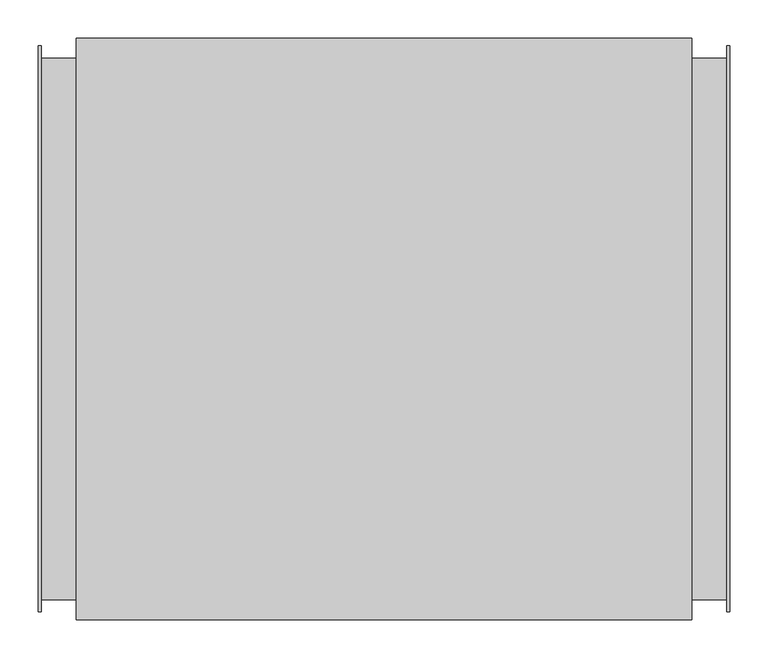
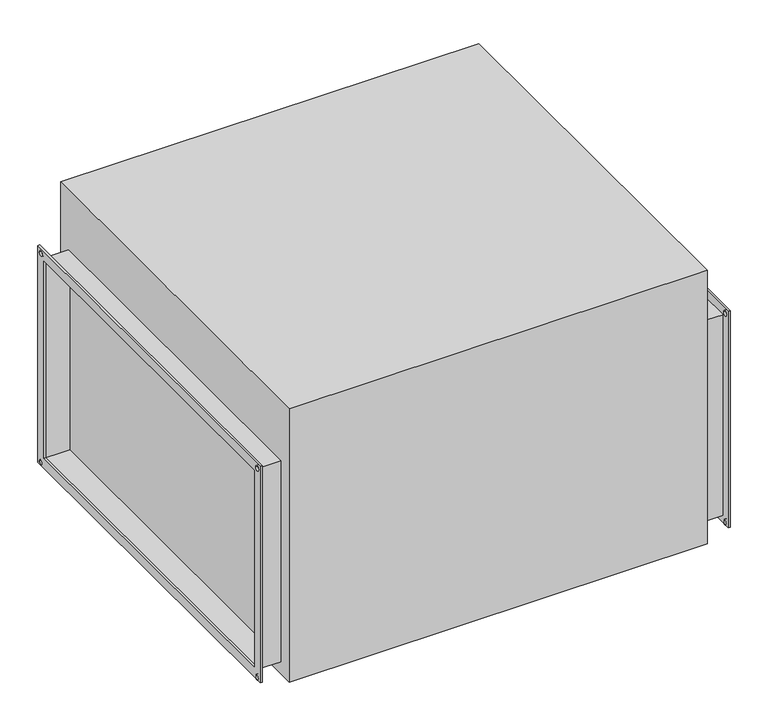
"""IFC4 building model written with IfcOpenShell, lengths in millimetres: proxy geometry."""

import ifcopenshell
import ifcopenshell.guid

model = None  # the IFC model being written
_history = None  # IfcOwnerHistory: only IFC2X3 demands one
_inside = {}  # id of a spatial element -> (the spatial element, [elements in it])
_under = {}  # id of a project, library or spatial element -> (it, [spatial elements below it])
_declared = {}  # id of a project -> (the project, [libraries it declares])
_typed = {}  # id of a type object -> (the type object, [elements of that type])
_made_of = {}  # id of a material, layer set ... -> (it, [elements and type objects made of it])


def new_model(schema):
    """Start an empty IFC model of exactly this schema.

    Asked for "IFC4X3", IfcOpenShell would pick the latest addendum, in which some entities
    have other attributes; the version numbers below select the first issue.
    IFC2X3 requires an IfcOwnerHistory on every rooted entity: one is made here for all.
    """
    global model, _history
    if schema == "IFC4X3":
        model = ifcopenshell.file(schema_version=(4, 3, 0, 0))
    else:
        model = ifcopenshell.file(schema=schema)
    _inside.clear()
    _under.clear()
    _declared.clear()
    _typed.clear()
    _made_of.clear()
    _history = None
    if model.schema == "IFC2X3":
        org = make("IfcOrganization", Name="unknown")
        user = make(
            "IfcPersonAndOrganization",
            ThePerson=make("IfcPerson", FamilyName="unknown"),
            TheOrganization=org,
        )
        app = make(
            "IfcApplication",
            ApplicationDeveloper=org,
            Version="unknown",
            ApplicationFullName="unknown",
            ApplicationIdentifier="unknown",
        )
        _history = make(
            "IfcOwnerHistory",
            OwningUser=user,
            OwningApplication=app,
            ChangeAction="ADDED",
            CreationDate=0,
        )
    return model


def make(cls, **values):
    """One entity of the class cls with the attributes given. An attribute that is None is left unset."""
    return model.create_entity(
        cls, **{name: value for name, value in values.items() if value is not None}
    )


def rooted(cls, **values):
    """An entity with a GlobalId (a new one), such as an element, a storey or a relation."""
    return make(cls, GlobalId=ifcopenshell.guid.new(), OwnerHistory=_history, **values)


def si_unit(unit_type, name, prefix=None):
    """IfcSIUnit, for example si_unit("LENGTHUNIT", "METRE", prefix="MILLI")."""
    return make("IfcSIUnit", UnitType=unit_type, Prefix=prefix, Name=name)


def assignment(units):
    """IfcUnitAssignment: the units of a project."""
    return None if units is None else make("IfcUnitAssignment", Units=units)


def point(xyz):
    """IfcCartesianPoint."""
    return None if xyz is None else make("IfcCartesianPoint", Coordinates=xyz)


def direction(xyz):
    """IfcDirection."""
    return None if xyz is None else make("IfcDirection", DirectionRatios=xyz)


def frame(location, z_axis=None, x_axis=None):
    """IfcAxis2Placement3D, a coordinate frame: its origin and axes. An axis left out is left unset."""
    return make(
        "IfcAxis2Placement3D",
        Location=point(location),
        Axis=direction(z_axis),
        RefDirection=direction(x_axis),
    )


def origin():
    """The frame at (0, 0, 0) with its axes left unset."""
    return frame((0.0, 0.0, 0.0))


def place(relative_to, where):
    """IfcLocalPlacement: puts the frame where relative to a parent placement (None: the world)."""
    return make(
        "IfcLocalPlacement", PlacementRelTo=relative_to, RelativePlacement=where
    )


def context(
    kind, dimensions, precision=None, world=None, true_north=None, identifier=None
):
    """IfcGeometricRepresentationContext, for example the 3D "Model" context."""
    return make(
        "IfcGeometricRepresentationContext",
        ContextIdentifier=identifier,
        ContextType=kind,
        CoordinateSpaceDimension=dimensions,
        Precision=precision,
        WorldCoordinateSystem=world,
        TrueNorth=true_north,
    )


def project(units=None, contexts=None):
    """IfcProject with its units and contexts."""
    return rooted(
        "IfcProject",
        Name="project",
        RepresentationContexts=contexts,
        UnitsInContext=assignment(units),
    )


def spatial(cls, under=None, at=None, **own):
    """A site, building, storey or space (cls), placed at a placement, below another one or the project."""
    s = rooted(cls, ObjectPlacement=at, **own)
    if under is not None:
        _under.setdefault(under.id(), (under, []))[1].append(s)
    return s


def polyline(points):
    """IfcPolyline through the points."""
    return make("IfcPolyline", Points=[point(p) for p in points])


def circle_curve(where, radius):
    """IfcCircle in the frame where."""
    return make("IfcCircle", Position=where, Radius=radius)


def outline(outer, holes=None, kind="AREA"):
    """IfcArbitraryClosedProfileDef: a profile drawn as a closed curve; with holes, ...WithVoids."""
    if holes is None:
        return make("IfcArbitraryClosedProfileDef", ProfileType=kind, OuterCurve=outer)
    return make(
        "IfcArbitraryProfileDefWithVoids",
        ProfileType=kind,
        OuterCurve=outer,
        InnerCurves=holes,
    )


def extrude(swept, where, along, depth):
    """IfcExtrudedAreaSolid: the profile swept, set in the frame where, extruded along a direction by depth."""
    return make(
        "IfcExtrudedAreaSolid",
        SweptArea=swept,
        Position=where,
        ExtrudedDirection=direction(along),
        Depth=depth,
    )


def shape(context_of_items, identifier, shape_type, items):
    """IfcShapeRepresentation: the items that make up one representation, for example the "Body"."""
    return make(
        "IfcShapeRepresentation",
        ContextOfItems=context_of_items,
        RepresentationIdentifier=identifier,
        RepresentationType=shape_type,
        Items=items,
    )


def source(mapping_origin, context_of_items, identifier, shape_type, items):
    """IfcRepresentationMap: a shape defined once, which mapped items show again and again."""
    return make(
        "IfcRepresentationMap",
        MappingOrigin=mapping_origin,
        MappedRepresentation=shape(context_of_items, identifier, shape_type, items),
    )


def transform(
    local_origin,
    x_axis=None,
    y_axis=None,
    z_axis=None,
    scale=None,
    scale2=None,
    scale3=None,
    uniform=True,
):
    """IfcCartesianTransformationOperator3D, or its non-uniform kind. x_axis, y_axis, z_axis: its Axis1, 2, 3."""
    if uniform:
        return make(
            "IfcCartesianTransformationOperator3D",
            Axis1=direction(x_axis),
            Axis2=direction(y_axis),
            LocalOrigin=point(local_origin),
            Scale=scale,
            Axis3=direction(z_axis),
        )
    return make(
        "IfcCartesianTransformationOperator3DnonUniform",
        Axis1=direction(x_axis),
        Axis2=direction(y_axis),
        LocalOrigin=point(local_origin),
        Scale=scale,
        Axis3=direction(z_axis),
        Scale2=scale2,
        Scale3=scale3,
    )


def mapped(mapping_source, mapping_target):
    """IfcMappedItem: shows the shape of a source again, moved by a transform."""
    return make(
        "IfcMappedItem", MappingSource=mapping_source, MappingTarget=mapping_target
    )


def made_of(thing, what):
    """Note that an element or type object is made of a material, layer set ...; save() writes the relation."""
    if what is not None:
        _made_of.setdefault(what.id(), (what, []))[1].append(thing)
    return thing


def element(
    cls,
    number,
    at=None,
    inside=None,
    cuts=None,
    type_object=None,
    material=None,
    context=None,
    identifier="Body",
    shape_type=None,
    held_by="IfcProductDefinitionShape",
    body=None,
    shapes=None,
    **own,
):
    """One element of the class cls, such as IfcWall. Its Tag is "e" and its number.

    at: its placement. inside: the storey or other place that contains it. cuts: it is an
    opening in that element (IfcRelVoidsElement). A single representation is given by context,
    identifier, shape_type and body (its items); several are given by shapes. held_by: the class
    of the entity that holds the representations. save() writes the other relations.
    """
    e = rooted(cls, Tag="e%d" % number, ObjectPlacement=at, **own)
    if body is not None:
        shapes = [shape(context, identifier, shape_type, body)]
    if shapes is not None:
        e.Representation = make(held_by, Representations=shapes)
    if inside is not None:
        _inside.setdefault(inside.id(), (inside, []))[1].append(e)
    if cuts is not None:
        rooted(
            "IfcRelVoidsElement", RelatingBuildingElement=cuts, RelatedOpeningElement=e
        )
    if type_object is not None:
        _typed.setdefault(type_object.id(), (type_object, []))[1].append(e)
    return made_of(e, material)


def aggregate(whole, parts):
    """IfcRelAggregates: a whole, such as a stair, and the parts it consists of."""
    return rooted("IfcRelAggregates", RelatingObject=whole, RelatedObjects=parts)


def save(model, path):
    """Write the relations noted so far, then the file.

    IfcRelAggregates (storeys below a building ...), IfcRelContainedInSpatialStructure (elements
    in a storey), IfcRelDefinesByType, IfcRelAssociatesMaterial and IfcRelDeclares: one each for
    every whole, place, type object, material and project.
    """
    for whole, parts in _under.values():
        aggregate(whole, parts)
    for where, things in _inside.values():
        rooted(
            "IfcRelContainedInSpatialStructure",
            RelatedElements=things,
            RelatingStructure=where,
        )
    for kind, things in _typed.values():
        rooted("IfcRelDefinesByType", RelatedObjects=things, RelatingType=kind)
    for what, things in _made_of.values():
        rooted("IfcRelAssociatesMaterial", RelatedObjects=things, RelatingMaterial=what)
    for by, libraries in _declared.values():
        rooted("IfcRelDeclares", RelatingContext=by, RelatedDefinitions=libraries)
    model.write(path)


def plane_surface(at):
    """IfcPlane: the flat surface through the origin of the frame at, square to its z axis."""
    return make("IfcPlane", Position=at)


def revolved_surface(curve, axis_point, axis_direction):
    """IfcSurfaceOfRevolution: the curve turned about the line through axis_point along axis_direction."""
    return make(
        "IfcSurfaceOfRevolution",
        SweptCurve=make("IfcArbitraryOpenProfileDef", ProfileType="CURVE", Curve=curve),
        AxisPosition=make("IfcAxis1Placement", Location=point(axis_point), Axis=direction(axis_direction)),
    )


def advanced_brep(points, edges, surfaces, faces):
    """IfcAdvancedBrep: a solid bounded by faces that lie on surfaces and meet in shared edges.

    An edge is (start, end): straight between two places in points (the first is 0);
    or (start, end, curve); or (start, end, curve, False) where it runs against its curve.
    A face is (place in surfaces, loops), or (place, loops, False) where it looks against
    its surface's normal. A loop lists edges by number (the first is 1), with a minus sign
    where the edge is run from its end to its start. The first loop is the outer one.
    """
    corners = [point(p) for p in points]
    vertices = [make("IfcVertexPoint", VertexGeometry=c) for c in corners]
    made = []
    for start, end, *more in edges:
        made.append(
            make(
                "IfcEdgeCurve",
                EdgeStart=vertices[start],
                EdgeEnd=vertices[end],
                EdgeGeometry=more[0] if more else make("IfcPolyline", Points=[corners[start], corners[end]]),
                SameSense=more[1] if len(more) > 1 else True,
            )
        )
    hull = []
    for where, loops, *sense in faces:
        bounds = []
        for j, loop in enumerate(loops):
            ring = [make("IfcOrientedEdge", EdgeElement=made[abs(k) - 1], Orientation=k > 0) for k in loop]
            bounds.append(
                make(
                    "IfcFaceOuterBound" if j == 0 else "IfcFaceBound",
                    Bound=make("IfcEdgeLoop", EdgeList=ring),
                    Orientation=True,
                )
            )
        hull.append(make("IfcAdvancedFace", Bounds=bounds, FaceSurface=surfaces[where], SameSense=sense[0] if sense else True))
    return make("IfcAdvancedBrep", Outer=make("IfcClosedShell", CfsFaces=hull))


def mechanical_equipment_14c00c82(model_context):
    return source(origin(), model_context, "Body", "SolidModel", [
        advanced_brep(
        [(448.0, 370.0, 220.0), (448.0, 370.0, -220.0), (448.0, 360.0, -220.0), (448.0, 365.0, -215.0), (448.0, 355.0, -215.0), (448.0, -360.0, -220.0), (448.0, -355.0, -215.0), (448.0, -365.0, -215.0), (448.0, -370.0, -220.0), (448.0, -370.0, 220.0), (448.0, 350.0, 200.0), (448.0, -350.0, 200.0), (448.0, -350.0, -200.0), (448.0, 350.0, -200.0), (448.0, 355.0, 210.0), (448.0, 365.0, 210.0), (448.0, -365.0, 210.0), (448.0, -355.0, 210.0), (452.0, 370.0, 220.0), (452.0, -370.0, 220.0), (452.0, -370.0, -220.0), (452.0, -360.0, -220.0), (452.0, -365.0, -215.0), (452.0, -355.0, -215.0), (452.0, 360.0, -220.0), (452.0, 355.0, -215.0), (452.0, 365.0, -215.0), (452.0, 370.0, -220.0), (452.0, 350.0, 200.0), (452.0, 350.0, -200.0), (452.0, -350.0, -200.0), (452.0, -350.0, 200.0), (452.0, 365.0, 210.0), (452.0, 355.0, 210.0), (452.0, -355.0, 210.0), (452.0, -365.0, 210.0)],
        [
            (0, 1),
            (1, 2),
            (2, 3, circle_curve(frame((448.0, 360.0, -215.0), z_axis=(1.0, 0.0, 0.0), x_axis=(0.0, 1.0, 0.0)), 5.0)),
            (3, 4, circle_curve(frame((448.0, 360.0, -215.0), z_axis=(1.0, 0.0, 0.0), x_axis=(0.0, 1.0, 0.0)), 5.0)),
            (4, 2, circle_curve(frame((448.0, 360.0, -215.0), z_axis=(1.0, 0.0, 0.0), x_axis=(0.0, 1.0, 0.0)), 5.0)),
            (2, 5),
            (5, 6, circle_curve(frame((448.0, -360.0, -215.0), z_axis=(1.0, 0.0, 0.0), x_axis=(0.0, 1.0, 0.0)), 5.0)),
            (6, 7, circle_curve(frame((448.0, -360.0, -215.0), z_axis=(1.0, 0.0, 0.0), x_axis=(0.0, 1.0, 0.0)), 5.0)),
            (7, 5, circle_curve(frame((448.0, -360.0, -215.0), z_axis=(1.0, 0.0, 0.0), x_axis=(0.0, 1.0, 0.0)), 5.0)),
            (5, 8),
            (8, 9),
            (9, 0),
            (10, 11),
            (11, 12),
            (12, 13),
            (13, 10),
            (14, 15, circle_curve(frame((448.0, 360.0, 210.0), z_axis=(1.0, 0.0, 0.0), x_axis=(0.0, 1.0, 0.0)), 5.0)),
            (15, 14, circle_curve(frame((448.0, 360.0, 210.0), z_axis=(1.0, 0.0, 0.0), x_axis=(0.0, 1.0, 0.0)), 5.0)),
            (16, 17, circle_curve(frame((448.0, -360.0, 210.0), z_axis=(1.0, 0.0, 0.0), x_axis=(0.0, 1.0, 0.0)), 5.0)),
            (17, 16, circle_curve(frame((448.0, -360.0, 210.0), z_axis=(1.0, 0.0, 0.0), x_axis=(0.0, 1.0, 0.0)), 5.0)),
            (18, 19),
            (19, 20),
            (20, 21),
            (21, 22, circle_curve(frame((452.0, -360.0, -215.0), z_axis=(-1.0, 0.0, 0.0), x_axis=(0.0, 1.0, 0.0)), 5.0)),
            (22, 23, circle_curve(frame((452.0, -360.0, -215.0), z_axis=(-1.0, 0.0, 0.0), x_axis=(0.0, 1.0, 0.0)), 5.0)),
            (23, 21, circle_curve(frame((452.0, -360.0, -215.0), z_axis=(-1.0, 0.0, 0.0), x_axis=(0.0, 1.0, 0.0)), 5.0)),
            (21, 24),
            (24, 25, circle_curve(frame((452.0, 360.0, -215.0), z_axis=(-1.0, 0.0, 0.0), x_axis=(0.0, 1.0, 0.0)), 5.0)),
            (25, 26, circle_curve(frame((452.0, 360.0, -215.0), z_axis=(-1.0, 0.0, 0.0), x_axis=(0.0, 1.0, 0.0)), 5.0)),
            (26, 24, circle_curve(frame((452.0, 360.0, -215.0), z_axis=(-1.0, 0.0, 0.0), x_axis=(0.0, 1.0, 0.0)), 5.0)),
            (24, 27),
            (27, 18),
            (28, 29),
            (29, 30),
            (30, 31),
            (31, 28),
            (32, 33, circle_curve(frame((452.0, 360.0, 210.0), z_axis=(-1.0, 0.0, 0.0), x_axis=(0.0, 1.0, 0.0)), 5.0)),
            (33, 32, circle_curve(frame((452.0, 360.0, 210.0), z_axis=(-1.0, 0.0, 0.0), x_axis=(0.0, 1.0, 0.0)), 5.0)),
            (34, 35, circle_curve(frame((452.0, -360.0, 210.0), z_axis=(-1.0, 0.0, 0.0), x_axis=(0.0, 1.0, 0.0)), 5.0)),
            (35, 34, circle_curve(frame((452.0, -360.0, 210.0), z_axis=(-1.0, 0.0, 0.0), x_axis=(0.0, 1.0, 0.0)), 5.0)),
            (13, 29),
            (28, 10),
            (12, 30),
            (11, 31),
            (9, 19),
            (18, 0),
            (8, 20),
            (1, 27),
            (14, 33),
            (32, 15),
            (16, 35),
            (34, 17),
            (7, 22),
            (23, 6),
            (4, 25),
            (26, 3),
        ],
        [
            plane_surface(frame((448.0, 350.0, -200.0), z_axis=(-1.0, 0.0, 0.0), x_axis=(0.0, 0.0, 1.0))),
            plane_surface(frame((452.0, 350.0, -200.0), z_axis=(1.0, 0.0, 0.0), x_axis=(0.0, 0.0, -1.0))),
            plane_surface(frame((452.0, 350.0, 200.0), z_axis=(0.0, -1.0, 0.0), x_axis=(-1.0, 0.0, 0.0))),
            plane_surface(frame((452.0, 350.0, -200.0), z_axis=(0.0, 0.0, 1.0), x_axis=(-1.0, 0.0, 0.0))),
            plane_surface(frame((452.0, -350.0, -200.0), z_axis=(0.0, 1.0, 0.0), x_axis=(-1.0, 0.0, 0.0))),
            plane_surface(frame((452.0, -350.0, 200.0), z_axis=(0.0, 0.0, -1.0), x_axis=(-1.0, 0.0, 0.0))),
            plane_surface(frame((452.0, 370.0, 220.0), z_axis=(0.0, 0.0, 1.0), x_axis=(-1.0, 0.0, 0.0))),
            plane_surface(frame((452.0, -370.0, 220.0), z_axis=(0.0, -1.0, 0.0), x_axis=(-1.0, 0.0, 0.0))),
            plane_surface(frame((452.0, -370.0, -220.0), z_axis=(0.0, 0.0, -1.0), x_axis=(-1.0, 0.0, 0.0))),
            plane_surface(frame((452.0, 370.0, -220.0), z_axis=(0.0, 1.0, 0.0), x_axis=(-1.0, 0.0, 0.0))),
            revolved_surface(polyline([(452.0, 365.0, 210.0), (448.0, 365.0, 210.0)]), (-452.0, 360.0, 210.0), (1.0, 0.0, 0.0)),
            revolved_surface(polyline([(452.0, -355.0, 210.0), (448.0, -355.0, 210.0)]), (0.0, -360.0, 210.0), (1.0, 0.0, 0.0)),
            revolved_surface(polyline([(452.0, -355.0, -215.0), (448.0, -355.0, -215.0)]), (0.0, -360.0, -215.0), (1.0, 0.0, 0.0)),
            revolved_surface(polyline([(452.0, 365.0, -215.0), (448.0, 365.0, -215.0)]), (0.0, 360.0, -215.0), (1.0, 0.0, 0.0)),
        ],
        [
            (0, [[1, 2, 3, 4, 5, 6, 7, 8, 9, 10, 11, 12], [13, 14, 15, 16], [17, 18], [19, 20]]),
            (1, [[21, 22, 23, 24, 25, 26, 27, 28, 29, 30, 31, 32], [33, 34, 35, 36], [37, 38], [39, 40]]),
            (2, [[-16, 41, -33, 42]]),
            (3, [[-15, 43, -34, -41]]),
            (4, [[-14, 44, -35, -43]]),
            (5, [[-13, -42, -36, -44]]),
            (6, [[-12, 45, -21, 46]]),
            (7, [[-11, 47, -22, -45]]),
            (8, [[-47, -10, -6, -2, 48, -31, -27, -23]]),
            (9, [[-1, -46, -32, -48]]),
            (10, [[49, -37, 50, -17]]),
            (10, [[-49, -18, -50, -38]]),
            (11, [[51, -39, 52, -19]]),
            (11, [[-51, -20, -52, -40]]),
            (12, [[53, -24, -26, 54, -7, -9]]),
            (12, [[-53, -8, -54, -25]]),
            (13, [[55, -28, -30, 56, -3, -5]]),
            (13, [[-55, -4, -56, -29]]),
        ],
    ),
        advanced_brep(
        [(-452.0, -370.0, 220.0), (-452.0, 370.0, 220.0), (-452.0, 370.0, -220.0), (-452.0, 360.0, -220.0), (-452.0, 365.0, -215.0), (-452.0, 355.0, -215.0), (-452.0, -360.0, -220.0), (-452.0, -355.0, -215.0), (-452.0, -365.0, -215.0), (-452.0, -370.0, -220.0), (-452.0, -350.0, 200.0), (-452.0, -350.0, -200.0), (-452.0, 350.0, -200.0), (-452.0, 350.0, 200.0), (-452.0, 355.0, 210.0), (-452.0, 365.0, 210.0), (-452.0, -365.0, 210.0), (-452.0, -355.0, 210.0), (-448.0, -370.0, 220.0), (-448.0, -370.0, -220.0), (-448.0, -360.0, -220.0), (-448.0, -365.0, -215.0), (-448.0, -355.0, -215.0), (-448.0, 360.0, -220.0), (-448.0, 355.0, -215.0), (-448.0, 365.0, -215.0), (-448.0, 370.0, -220.0), (-448.0, 370.0, 220.0), (-448.0, -350.0, 200.0), (-448.0, 350.0, 200.0), (-448.0, 350.0, -200.0), (-448.0, -350.0, -200.0), (-448.0, 365.0, 210.0), (-448.0, 355.0, 210.0), (-448.0, -355.0, 210.0), (-448.0, -365.0, 210.0)],
        [
            (0, 1),
            (1, 2),
            (2, 3),
            (3, 4, circle_curve(frame((-452.0, 360.0, -215.0), z_axis=(1.0, 0.0, 0.0), x_axis=(0.0, 1.0, 0.0)), 5.0)),
            (4, 5, circle_curve(frame((-452.0, 360.0, -215.0), z_axis=(1.0, 0.0, 0.0), x_axis=(0.0, 1.0, 0.0)), 5.0)),
            (5, 3, circle_curve(frame((-452.0, 360.0, -215.0), z_axis=(1.0, 0.0, 0.0), x_axis=(0.0, 1.0, 0.0)), 5.0)),
            (3, 6),
            (6, 7, circle_curve(frame((-452.0, -360.0, -215.0), z_axis=(1.0, 0.0, 0.0), x_axis=(0.0, 1.0, 0.0)), 5.0)),
            (7, 8, circle_curve(frame((-452.0, -360.0, -215.0), z_axis=(1.0, 0.0, 0.0), x_axis=(0.0, 1.0, 0.0)), 5.0)),
            (8, 6, circle_curve(frame((-452.0, -360.0, -215.0), z_axis=(1.0, 0.0, 0.0), x_axis=(0.0, 1.0, 0.0)), 5.0)),
            (6, 9),
            (9, 0),
            (10, 11),
            (11, 12),
            (12, 13),
            (13, 10),
            (14, 15, circle_curve(frame((-452.0, 360.0, 210.0), z_axis=(1.0, 0.0, 0.0), x_axis=(0.0, 1.0, 0.0)), 5.0)),
            (15, 14, circle_curve(frame((-452.0, 360.0, 210.0), z_axis=(1.0, 0.0, 0.0), x_axis=(0.0, 1.0, 0.0)), 5.0)),
            (16, 17, circle_curve(frame((-452.0, -360.0, 210.0), z_axis=(1.0, 0.0, 0.0), x_axis=(0.0, 1.0, 0.0)), 5.0)),
            (17, 16, circle_curve(frame((-452.0, -360.0, 210.0), z_axis=(1.0, 0.0, 0.0), x_axis=(0.0, 1.0, 0.0)), 5.0)),
            (18, 19),
            (19, 20),
            (20, 21, circle_curve(frame((-448.0, -360.0, -215.0), z_axis=(-1.0, 0.0, 0.0), x_axis=(0.0, 1.0, 0.0)), 5.0)),
            (21, 22, circle_curve(frame((-448.0, -360.0, -215.0), z_axis=(-1.0, 0.0, 0.0), x_axis=(0.0, 1.0, 0.0)), 5.0)),
            (22, 20, circle_curve(frame((-448.0, -360.0, -215.0), z_axis=(-1.0, 0.0, 0.0), x_axis=(0.0, 1.0, 0.0)), 5.0)),
            (20, 23),
            (23, 24, circle_curve(frame((-448.0, 360.0, -215.0), z_axis=(-1.0, 0.0, 0.0), x_axis=(0.0, 1.0, 0.0)), 5.0)),
            (24, 25, circle_curve(frame((-448.0, 360.0, -215.0), z_axis=(-1.0, 0.0, 0.0), x_axis=(0.0, 1.0, 0.0)), 5.0)),
            (25, 23, circle_curve(frame((-448.0, 360.0, -215.0), z_axis=(-1.0, 0.0, 0.0), x_axis=(0.0, 1.0, 0.0)), 5.0)),
            (23, 26),
            (26, 27),
            (27, 18),
            (28, 29),
            (29, 30),
            (30, 31),
            (31, 28),
            (32, 33, circle_curve(frame((-448.0, 360.0, 210.0), z_axis=(-1.0, 0.0, 0.0), x_axis=(0.0, 1.0, 0.0)), 5.0)),
            (33, 32, circle_curve(frame((-448.0, 360.0, 210.0), z_axis=(-1.0, 0.0, 0.0), x_axis=(0.0, 1.0, 0.0)), 5.0)),
            (34, 35, circle_curve(frame((-448.0, -360.0, 210.0), z_axis=(-1.0, 0.0, 0.0), x_axis=(0.0, 1.0, 0.0)), 5.0)),
            (35, 34, circle_curve(frame((-448.0, -360.0, 210.0), z_axis=(-1.0, 0.0, 0.0), x_axis=(0.0, 1.0, 0.0)), 5.0)),
            (9, 19),
            (18, 0),
            (2, 26),
            (1, 27),
            (13, 29),
            (28, 10),
            (12, 30),
            (11, 31),
            (14, 33),
            (32, 15),
            (16, 35),
            (34, 17),
            (8, 21),
            (22, 7),
            (5, 24),
            (25, 4),
        ],
        [
            plane_surface(frame((-452.0, -370.0, 220.0), z_axis=(-1.0, 0.0, 0.0), x_axis=(0.0, 0.0, 1.0))),
            plane_surface(frame((-448.0, -370.0, 220.0), z_axis=(1.0, 0.0, 0.0), x_axis=(0.0, 0.0, -1.0))),
            plane_surface(frame((-448.0, -370.0, 220.0), z_axis=(0.0, -1.0, 0.0), x_axis=(-1.0, 0.0, 0.0))),
            plane_surface(frame((-448.0, -370.0, -220.0), z_axis=(0.0, 0.0, -1.0), x_axis=(-1.0, 0.0, 0.0))),
            plane_surface(frame((-448.0, 370.0, -220.0), z_axis=(0.0, 1.0, 0.0), x_axis=(-1.0, 0.0, 0.0))),
            plane_surface(frame((-448.0, 370.0, 220.0), z_axis=(0.0, 0.0, 1.0), x_axis=(-1.0, 0.0, 0.0))),
            plane_surface(frame((-448.0, -350.0, 200.0), z_axis=(0.0, 0.0, -1.0), x_axis=(-1.0, 0.0, 0.0))),
            plane_surface(frame((-448.0, 350.0, 200.0), z_axis=(0.0, -1.0, 0.0), x_axis=(-1.0, 0.0, 0.0))),
            plane_surface(frame((-448.0, 350.0, -200.0), z_axis=(0.0, 0.0, 1.0), x_axis=(-1.0, 0.0, 0.0))),
            plane_surface(frame((-448.0, -350.0, -200.0), z_axis=(0.0, 1.0, 0.0), x_axis=(-1.0, 0.0, 0.0))),
            revolved_surface(polyline([(-448.0, 365.0, 210.0), (-452.0, 365.0, 210.0)]), (-452.0, 360.0, 210.0), (1.0, 0.0, 0.0)),
            revolved_surface(polyline([(-448.0, -355.0, 210.0), (-452.0, -355.0, 210.0)]), (0.0, -360.0, 210.0), (1.0, 0.0, 0.0)),
            revolved_surface(polyline([(-448.0, -355.0, -215.0), (-452.0, -355.0, -215.0)]), (0.0, -360.0, -215.0), (1.0, 0.0, 0.0)),
            revolved_surface(polyline([(-448.0, 365.0, -215.0), (-452.0, 365.0, -215.0)]), (0.0, 360.0, -215.0), (1.0, 0.0, 0.0)),
        ],
        [
            (0, [[1, 2, 3, 4, 5, 6, 7, 8, 9, 10, 11, 12], [13, 14, 15, 16], [17, 18], [19, 20]]),
            (1, [[21, 22, 23, 24, 25, 26, 27, 28, 29, 30, 31, 32], [33, 34, 35, 36], [37, 38], [39, 40]]),
            (2, [[-12, 41, -21, 42]]),
            (3, [[-41, -11, -7, -3, 43, -30, -26, -22]]),
            (4, [[-2, 44, -31, -43]]),
            (5, [[-1, -42, -32, -44]]),
            (6, [[-16, 45, -33, 46]]),
            (7, [[-15, 47, -34, -45]]),
            (8, [[-14, 48, -35, -47]]),
            (9, [[-13, -46, -36, -48]]),
            (10, [[49, -37, 50, -17]]),
            (10, [[-49, -18, -50, -38]]),
            (11, [[51, -39, 52, -19]]),
            (11, [[-51, -20, -52, -40]]),
            (12, [[53, -23, -25, 54, -8, -10]]),
            (12, [[-53, -9, -54, -24]]),
            (13, [[55, -27, -29, 56, -4, -6]]),
            (13, [[-55, -5, -56, -28]]),
        ],
    ),
        extrude(outline(polyline([(402.0, 380.0), (402.0, -380.0), (-402.0, -380.0), (-402.0, 380.0), (402.0, 380.0)])), frame((0.0, 0.0, -230.0), z_axis=(0.0, 0.0, 1.0), x_axis=(1.0, 0.0, 0.0)), (0.0, 0.0, 1.0), 556.0),
        extrude(outline(polyline([(-354.0, 204.0), (354.0, 204.0), (354.0, -204.0), (-354.0, -204.0), (-354.0, 204.0)]), holes=[polyline([(350.0, 200.0), (-350.0, 200.0), (-350.0, -200.0), (350.0, -200.0), (350.0, 200.0)])]), frame((-448.0, 0.0, 0.0), z_axis=(1.0, 0.0, 0.0), x_axis=(0.0, 1.0, 0.0)), (0.0, 0.0, 1.0), 46.0),
        extrude(outline(polyline([(-354.0, 204.0), (354.0, 204.0), (354.0, -204.0), (-354.0, -204.0), (-354.0, 204.0)]), holes=[polyline([(350.0, 200.0), (-350.0, 200.0), (-350.0, -200.0), (350.0, -200.0), (350.0, 200.0)])]), frame((402.0, 0.0, 0.0), z_axis=(1.0, 0.0, 0.0), x_axis=(0.0, 1.0, 0.0)), (0.0, 0.0, 1.0), 46.0),
    ])


if __name__ == "__main__":
    model = new_model("IFC4")
    model_context = context("Model", 3, world=origin())
    ifc_project = project(units=[si_unit("LENGTHUNIT", "METRE", prefix="MILLI")], contexts=[model_context])
    site = spatial("IfcSite", under=ifc_project)
    building = spatial("IfcBuilding", under=site)
    placement = place(None, origin())
    mechanical_equipment_shape = mechanical_equipment_14c00c82(model_context)
    element("IfcBuildingElementProxy", 1, Name="Mechanical Equipment", at=placement, inside=building, context=model_context, shape_type="MappedRepresentation", body=[
        mapped(mechanical_equipment_shape, transform((0.0, 0.0, 0.0), x_axis=(1.0, 0.0, 0.0), y_axis=(0.0, 1.0, 0.0), z_axis=(0.0, 0.0, 1.0))),
    ])
    save(model, "model.ifc")
